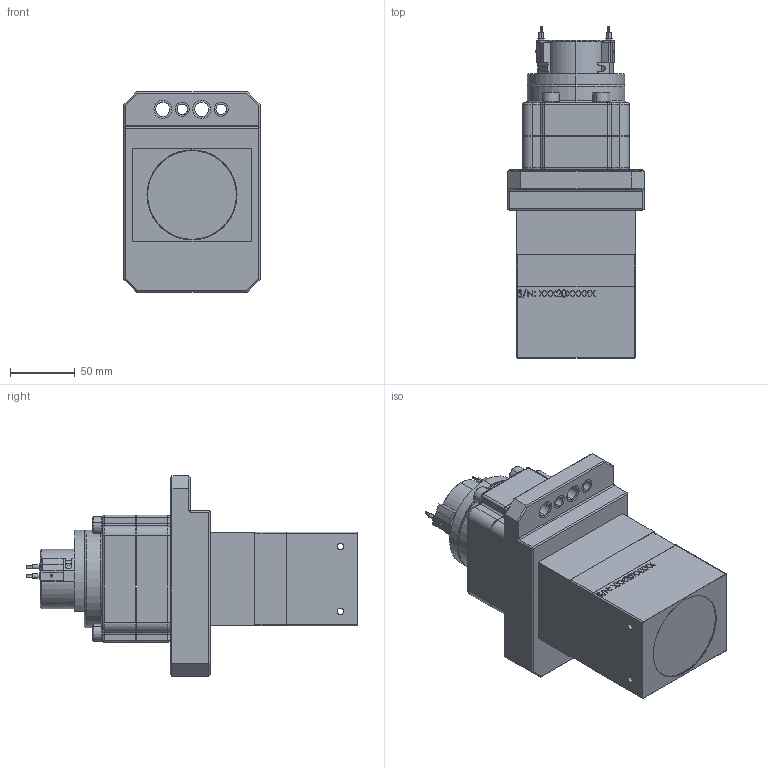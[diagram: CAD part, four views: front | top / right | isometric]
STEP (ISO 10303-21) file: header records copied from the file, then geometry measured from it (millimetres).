
FILE_DESCRIPTION (( 'STEP AP203' ), '1' );
FILE_NAME ('8140681_p.STEP', '2013-08-05T18:53:39', ( '' ), ( '' ), 'SwSTEP 2.0', 'SolidWorks 2010', '' );
FILE_SCHEMA (( 'CONFIG_CONTROL_DESIGN' ));
Length unit declared in the file: millimetre
Products named in the file (1): 8140681_p
Bounding box: 105 x 255.9 x 154.5 mm (x, y, z)
Surface area: 143587.9 mm2 (no closed solid volume)
Topology: 0 solids, 35 shells, 762 faces, 3084 edges, 2291 vertices
Faces by surface type: plane 393, cylinder 187, cone 82, bspline 62, torus 30, sphere 8
Entity records: 38174 total; most frequent: CARTESIAN_POINT 14306, ORIENTED_EDGE 4494, DIRECTION 4395, EDGE_CURVE 3074, VERTEX_POINT 2291, LINE 1731, VECTOR 1731, AXIS2_PLACEMENT_3D 1332
